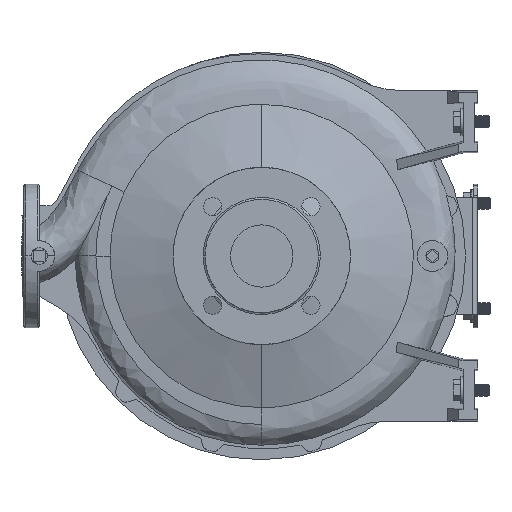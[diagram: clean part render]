
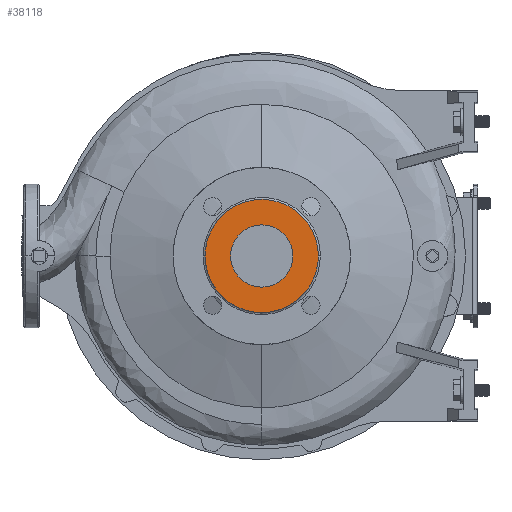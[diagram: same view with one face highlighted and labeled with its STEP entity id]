
A CAD part, left-side view. The second image highlights one B-rep face of the part: STEP entity #38118.
In plain terms, the highlighted planar face has unit normal (-1, 0, 0).
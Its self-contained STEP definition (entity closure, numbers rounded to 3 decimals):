
#9083 = DIRECTION ( 'NONE',  ( 1., 0., 0. ) ) ;
#9453 = AXIS2_PLACEMENT_3D ( 'NONE', #89236, #121113, #18913 ) ;
#12485 =( BOUNDED_CURVE ( )  B_SPLINE_CURVE ( 3, ( #55876, #106431, #107510, #74548 ),
 .UNSPECIFIED., .F., .F. ) 
 B_SPLINE_CURVE_WITH_KNOTS ( ( 4, 4 ),
 ( 0., 0.186 ),
 .UNSPECIFIED. ) 
 CURVE ( )  GEOMETRIC_REPRESENTATION_ITEM ( )  RATIONAL_B_SPLINE_CURVE ( ( 0.957, 0.319, 0.319, 0.957 ) ) 
 REPRESENTATION_ITEM ( '' )  );
#15176 = CIRCLE ( 'NONE', #117006, 32.5 ) ;
#16956 = CARTESIAN_POINT ( 'NONE',  ( -125., -59., 0. ) ) ;
#17011 = VERTEX_POINT ( 'NONE', #113672 ) ;
#18913 = DIRECTION ( 'NONE',  ( 0., -1., 0. ) ) ;
#19926 = DIRECTION ( 'NONE',  ( 1., 0., 0. ) ) ;
#22304 = ORIENTED_EDGE ( 'NONE', *, *, #199540, .T. ) ;
#27177 = CARTESIAN_POINT ( 'NONE',  ( -125., 59., -118. ) ) ;
#28259 = CARTESIAN_POINT ( 'NONE',  ( -125., 59., 0. ) ) ;
#28817 = CARTESIAN_POINT ( 'NONE',  ( -125., 0., 0. ) ) ;
#36495 = ORIENTED_EDGE ( 'NONE', *, *, #200314, .T. ) ;
#38107 = VERTEX_POINT ( 'NONE', #102482 ) ;
#38118 = ADVANCED_FACE ( 'NONE', ( #87077, #188111 ), #190310, .T. ) ;
#45058 = CIRCLE ( 'NONE', #164216, 32.5 ) ;
#48491 = EDGE_CURVE ( 'NONE', #17011, #38107, #45058, .T. ) ;
#50643 = EDGE_LOOP ( 'NONE', ( #204561, #36495 ) ) ;
#55876 = CARTESIAN_POINT ( 'NONE',  ( -125., -59., 0. ) ) ;
#61690 = EDGE_CURVE ( 'NONE', #166373, #191499, #12485, .T. ) ;
#65528 = CARTESIAN_POINT ( 'NONE',  ( -125., -59., 0. ) ) ;
#74190 = CARTESIAN_POINT ( 'NONE',  ( -125., 59., 0. ) ) ;
#74548 = CARTESIAN_POINT ( 'NONE',  ( -125., 59., 0. ) ) ;
#83849 =( BOUNDED_CURVE ( )  B_SPLINE_CURVE ( 3, ( #28259, #27177, #216047, #65528 ),
 .UNSPECIFIED., .F., .F. ) 
 B_SPLINE_CURVE_WITH_KNOTS ( ( 4, 4 ),
 ( 0., 0.186 ),
 .UNSPECIFIED. ) 
 CURVE ( )  GEOMETRIC_REPRESENTATION_ITEM ( )  RATIONAL_B_SPLINE_CURVE ( ( 0.957, 0.319, 0.319, 0.957 ) ) 
 REPRESENTATION_ITEM ( '' )  );
#87077 = FACE_BOUND ( 'NONE', #50643, .T. ) ;
#89236 = CARTESIAN_POINT ( 'NONE',  ( -125., 59.708, -59.708 ) ) ;
#101336 = DIRECTION ( 'NONE',  ( 0., 0., 1. ) ) ;
#102482 = CARTESIAN_POINT ( 'NONE',  ( -125., 0., -32.5 ) ) ;
#106431 = CARTESIAN_POINT ( 'NONE',  ( -125., -59., 118. ) ) ;
#107510 = CARTESIAN_POINT ( 'NONE',  ( -125., 59., 118. ) ) ;
#113672 = CARTESIAN_POINT ( 'NONE',  ( -125., 0., 32.5 ) ) ;
#117006 = AXIS2_PLACEMENT_3D ( 'NONE', #28817, #9083, #126671 ) ;
#121113 = DIRECTION ( 'NONE',  ( -1., 0., 0. ) ) ;
#126671 = DIRECTION ( 'NONE',  ( 0., 0., 1. ) ) ;
#155655 = EDGE_LOOP ( 'NONE', ( #170997, #22304 ) ) ;
#164216 = AXIS2_PLACEMENT_3D ( 'NONE', #199142, #19926, #101336 ) ;
#166373 = VERTEX_POINT ( 'NONE', #16956 ) ;
#170997 = ORIENTED_EDGE ( 'NONE', *, *, #61690, .T. ) ;
#188111 = FACE_OUTER_BOUND ( 'NONE', #155655, .T. ) ;
#190310 = PLANE ( 'NONE',  #9453 ) ;
#191499 = VERTEX_POINT ( 'NONE', #74190 ) ;
#199142 = CARTESIAN_POINT ( 'NONE',  ( -125., 0., 0. ) ) ;
#199540 = EDGE_CURVE ( 'NONE', #191499, #166373, #83849, .T. ) ;
#200314 = EDGE_CURVE ( 'NONE', #38107, #17011, #15176, .T. ) ;
#204561 = ORIENTED_EDGE ( 'NONE', *, *, #48491, .T. ) ;
#216047 = CARTESIAN_POINT ( 'NONE',  ( -125., -59., -118. ) ) ;
